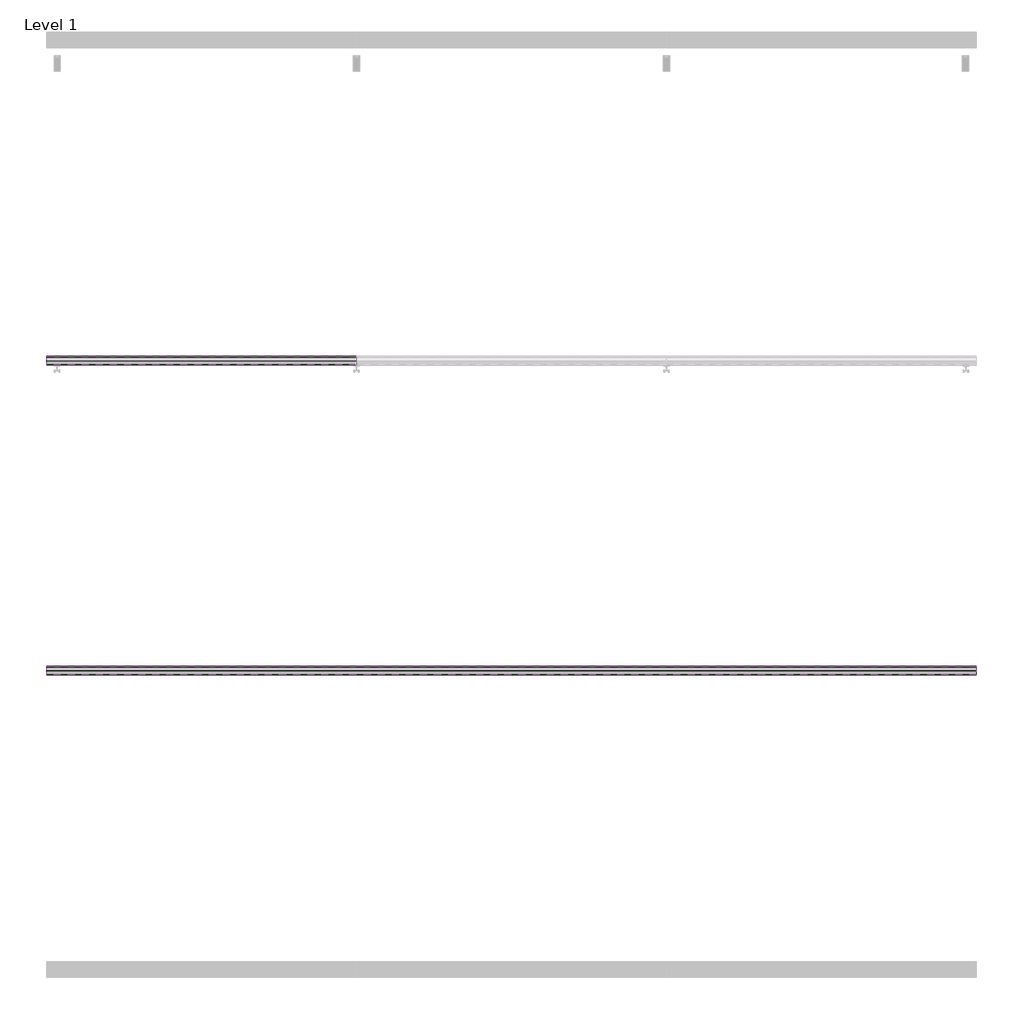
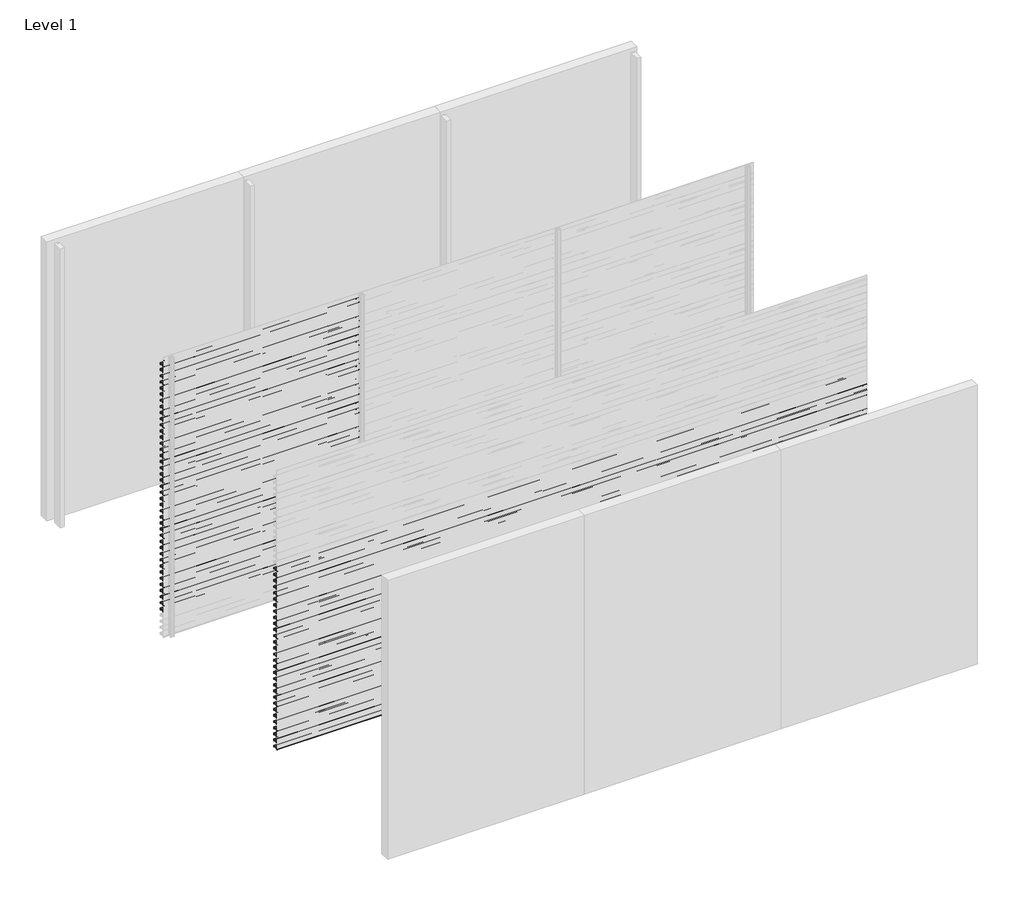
# One storey, part 8 of 27: 71 proxies.
"""IFC4 building model written with IfcOpenShell, lengths in millimetres."""

from ifc_helpers import new_model, si_unit, frame, origin, place, context, project, spatial, polyline, outline, extrude, element, save

model = new_model("IFC4")

# Units and contexts
model_context = context("Model", 3, world=origin())
ifc_project = project(units=[si_unit("LENGTHUNIT", "METRE", prefix="MILLI")], contexts=[model_context])

# Site, building, storey
site = spatial("IfcSite", under=ifc_project)
building = spatial("IfcBuilding", under=site)
storey = spatial("IfcBuildingStorey", under=building, Name="Level 1", Elevation=0.0)

# Proxies
placement = place(None, origin())
element("IfcBuildingElementProxy", 1, Name="Wall Sweeps", at=placement, inside=storey, context=model_context, shape_type="SweptSolid", body=[
    extrude(outline(polyline([(-41943.0, 2913.2), (-41943.0, 2893.5), (-41944.25, 2894.5866084), (-41944.25, 2912.4872415), (-41963.0322086, 2925.6010889), (-41995.1332975, 2893.5), (-41996.0525363, 2894.4192388), (-41964.1148087, 2926.3569665), (-41998.0, 2950.0158044), (-41998.0, 2970.0), (-41996.75, 2970.0), (-41996.75, 2950.7285629), (-41943.0, 2913.2)])), frame((0.0, 0.0, 0.0), z_axis=(1.0, 0.0, 0.0), x_axis=(0.0, 1.0, 0.0)), (0.0, 0.0, 1.0), 2000.0),
])
element("IfcBuildingElementProxy", 2, Name="Wall Sweeps", at=placement, inside=storey, context=model_context, shape_type="SweptSolid", body=[
    extrude(outline(polyline([(-41943.0, 2847.2), (-41943.0, 2827.5), (-41944.25, 2828.5866084), (-41944.25, 2846.4872415), (-41963.0322086, 2859.6010889), (-41995.1332975, 2827.5), (-41996.0525363, 2828.4192388), (-41964.1148087, 2860.3569665), (-41998.0, 2884.0158044), (-41998.0, 2904.0), (-41996.75, 2904.0), (-41996.75, 2884.7285629), (-41943.0, 2847.2)])), frame((0.0, 0.0, 0.0), z_axis=(1.0, 0.0, 0.0), x_axis=(0.0, 1.0, 0.0)), (0.0, 0.0, 1.0), 2000.0),
])
element("IfcBuildingElementProxy", 3, Name="Wall Sweeps", at=placement, inside=storey, context=model_context, shape_type="SweptSolid", body=[
    extrude(outline(polyline([(-41943.0, 2781.2), (-41943.0, 2761.5), (-41944.25, 2762.5866084), (-41944.25, 2780.4872415), (-41963.0322086, 2793.6010889), (-41995.1332975, 2761.5), (-41996.0525363, 2762.4192388), (-41964.1148087, 2794.3569665), (-41998.0, 2818.0158044), (-41998.0, 2838.0), (-41996.75, 2838.0), (-41996.75, 2818.7285629), (-41943.0, 2781.2)])), frame((0.0, 0.0, 0.0), z_axis=(1.0, 0.0, 0.0), x_axis=(0.0, 1.0, 0.0)), (0.0, 0.0, 1.0), 2000.0),
])
element("IfcBuildingElementProxy", 4, Name="Wall Sweeps", at=placement, inside=storey, context=model_context, shape_type="SweptSolid", body=[
    extrude(outline(polyline([(-41943.0, 2715.2), (-41943.0, 2695.5), (-41944.25, 2696.5866084), (-41944.25, 2714.4872415), (-41963.0322086, 2727.6010889), (-41995.1332975, 2695.5), (-41996.0525363, 2696.4192388), (-41964.1148087, 2728.3569665), (-41998.0, 2752.0158044), (-41998.0, 2772.0), (-41996.75, 2772.0), (-41996.75, 2752.7285629), (-41943.0, 2715.2)])), frame((0.0, 0.0, 0.0), z_axis=(1.0, 0.0, 0.0), x_axis=(0.0, 1.0, 0.0)), (0.0, 0.0, 1.0), 2000.0),
])
element("IfcBuildingElementProxy", 5, Name="Wall Sweeps", at=placement, inside=storey, context=model_context, shape_type="SweptSolid", body=[
    extrude(outline(polyline([(-41943.0, 2649.2), (-41943.0, 2629.5), (-41944.25, 2630.5866084), (-41944.25, 2648.4872415), (-41963.0322086, 2661.6010889), (-41995.1332975, 2629.5), (-41996.0525363, 2630.4192388), (-41964.1148087, 2662.3569665), (-41998.0, 2686.0158044), (-41998.0, 2706.0), (-41996.75, 2706.0), (-41996.75, 2686.7285629), (-41943.0, 2649.2)])), frame((0.0, 0.0, 0.0), z_axis=(1.0, 0.0, 0.0), x_axis=(0.0, 1.0, 0.0)), (0.0, 0.0, 1.0), 2000.0),
])
element("IfcBuildingElementProxy", 6, Name="Wall Sweeps", at=placement, inside=storey, context=model_context, shape_type="SweptSolid", body=[
    extrude(outline(polyline([(-41943.0, 2583.2), (-41943.0, 2563.5), (-41944.25, 2564.5866084), (-41944.25, 2582.4872415), (-41963.0322086, 2595.6010889), (-41995.1332975, 2563.5), (-41996.0525363, 2564.4192388), (-41964.1148087, 2596.3569665), (-41998.0, 2620.0158044), (-41998.0, 2640.0), (-41996.75, 2640.0), (-41996.75, 2620.7285629), (-41943.0, 2583.2)])), frame((0.0, 0.0, 0.0), z_axis=(1.0, 0.0, 0.0), x_axis=(0.0, 1.0, 0.0)), (0.0, 0.0, 1.0), 2000.0),
])
element("IfcBuildingElementProxy", 7, Name="Wall Sweeps", at=placement, inside=storey, context=model_context, shape_type="SweptSolid", body=[
    extrude(outline(polyline([(-41943.0, 2517.2), (-41943.0, 2497.5), (-41944.25, 2498.5866084), (-41944.25, 2516.4872415), (-41963.0322086, 2529.6010889), (-41995.1332975, 2497.5), (-41996.0525363, 2498.4192388), (-41964.1148087, 2530.3569665), (-41998.0, 2554.0158044), (-41998.0, 2574.0), (-41996.75, 2574.0), (-41996.75, 2554.7285629), (-41943.0, 2517.2)])), frame((0.0, 0.0, 0.0), z_axis=(1.0, 0.0, 0.0), x_axis=(0.0, 1.0, 0.0)), (0.0, 0.0, 1.0), 2000.0),
])
element("IfcBuildingElementProxy", 8, Name="Wall Sweeps", at=placement, inside=storey, context=model_context, shape_type="SweptSolid", body=[
    extrude(outline(polyline([(-41943.0, 2451.2), (-41943.0, 2431.5), (-41944.25, 2432.5866084), (-41944.25, 2450.4872415), (-41963.0322086, 2463.6010889), (-41995.1332975, 2431.5), (-41996.0525363, 2432.4192388), (-41964.1148087, 2464.3569665), (-41998.0, 2488.0158044), (-41998.0, 2508.0), (-41996.75, 2508.0), (-41996.75, 2488.7285629), (-41943.0, 2451.2)])), frame((0.0, 0.0, 0.0), z_axis=(1.0, 0.0, 0.0), x_axis=(0.0, 1.0, 0.0)), (0.0, 0.0, 1.0), 2000.0),
])
element("IfcBuildingElementProxy", 9, Name="Wall Sweeps", at=placement, inside=storey, context=model_context, shape_type="SweptSolid", body=[
    extrude(outline(polyline([(-41943.0, 2385.2), (-41943.0, 2365.5), (-41944.25, 2366.5866084), (-41944.25, 2384.4872415), (-41963.0322086, 2397.6010889), (-41995.1332975, 2365.5), (-41996.0525363, 2366.4192388), (-41964.1148087, 2398.3569665), (-41998.0, 2422.0158044), (-41998.0, 2442.0), (-41996.75, 2442.0), (-41996.75, 2422.7285629), (-41943.0, 2385.2)])), frame((0.0, 0.0, 0.0), z_axis=(1.0, 0.0, 0.0), x_axis=(0.0, 1.0, 0.0)), (0.0, 0.0, 1.0), 2000.0),
])
element("IfcBuildingElementProxy", 10, Name="Wall Sweeps", at=placement, inside=storey, context=model_context, shape_type="SweptSolid", body=[
    extrude(outline(polyline([(-41943.0, 2319.2), (-41943.0, 2299.5), (-41944.25, 2300.5866084), (-41944.25, 2318.4872415), (-41963.0322086, 2331.6010889), (-41995.1332975, 2299.5), (-41996.0525363, 2300.4192388), (-41964.1148087, 2332.3569665), (-41998.0, 2356.0158044), (-41998.0, 2376.0), (-41996.75, 2376.0), (-41996.75, 2356.7285629), (-41943.0, 2319.2)])), frame((0.0, 0.0, 0.0), z_axis=(1.0, 0.0, 0.0), x_axis=(0.0, 1.0, 0.0)), (0.0, 0.0, 1.0), 2000.0),
])
element("IfcBuildingElementProxy", 11, Name="Wall Sweeps", at=placement, inside=storey, context=model_context, shape_type="SweptSolid", body=[
    extrude(outline(polyline([(-41943.0, 2253.2), (-41943.0, 2233.5), (-41944.25, 2234.5866084), (-41944.25, 2252.4872415), (-41963.0322086, 2265.6010889), (-41995.1332975, 2233.5), (-41996.0525363, 2234.4192388), (-41964.1148087, 2266.3569665), (-41998.0, 2290.0158044), (-41998.0, 2310.0), (-41996.75, 2310.0), (-41996.75, 2290.7285629), (-41943.0, 2253.2)])), frame((0.0, 0.0, 0.0), z_axis=(1.0, 0.0, 0.0), x_axis=(0.0, 1.0, 0.0)), (0.0, 0.0, 1.0), 2000.0),
])
element("IfcBuildingElementProxy", 12, Name="Wall Sweeps", at=placement, inside=storey, context=model_context, shape_type="SweptSolid", body=[
    extrude(outline(polyline([(-41943.0, 2187.2), (-41943.0, 2167.5), (-41944.25, 2168.5866084), (-41944.25, 2186.4872415), (-41963.0322086, 2199.6010889), (-41995.1332975, 2167.5), (-41996.0525363, 2168.4192388), (-41964.1148087, 2200.3569665), (-41998.0, 2224.0158044), (-41998.0, 2244.0), (-41996.75, 2244.0), (-41996.75, 2224.7285629), (-41943.0, 2187.2)])), frame((0.0, 0.0, 0.0), z_axis=(1.0, 0.0, 0.0), x_axis=(0.0, 1.0, 0.0)), (0.0, 0.0, 1.0), 2000.0),
])
element("IfcBuildingElementProxy", 13, Name="Wall Sweeps", at=placement, inside=storey, context=model_context, shape_type="SweptSolid", body=[
    extrude(outline(polyline([(-41943.0, 2121.2), (-41943.0, 2101.5), (-41944.25, 2102.5866084), (-41944.25, 2120.4872415), (-41963.0322086, 2133.6010889), (-41995.1332975, 2101.5), (-41996.0525363, 2102.4192388), (-41964.1148087, 2134.3569665), (-41998.0, 2158.0158044), (-41998.0, 2178.0), (-41996.75, 2178.0), (-41996.75, 2158.7285629), (-41943.0, 2121.2)])), frame((0.0, 0.0, 0.0), z_axis=(1.0, 0.0, 0.0), x_axis=(0.0, 1.0, 0.0)), (0.0, 0.0, 1.0), 2000.0),
])
element("IfcBuildingElementProxy", 14, Name="Wall Sweeps", at=placement, inside=storey, context=model_context, shape_type="SweptSolid", body=[
    extrude(outline(polyline([(-41943.0, 2055.2), (-41943.0, 2035.5), (-41944.25, 2036.5866084), (-41944.25, 2054.4872415), (-41963.0322086, 2067.6010889), (-41995.1332975, 2035.5), (-41996.0525363, 2036.4192388), (-41964.1148087, 2068.3569665), (-41998.0, 2092.0158044), (-41998.0, 2112.0), (-41996.75, 2112.0), (-41996.75, 2092.7285629), (-41943.0, 2055.2)])), frame((0.0, 0.0, 0.0), z_axis=(1.0, 0.0, 0.0), x_axis=(0.0, 1.0, 0.0)), (0.0, 0.0, 1.0), 2000.0),
])
element("IfcBuildingElementProxy", 15, Name="Wall Sweeps", at=placement, inside=storey, context=model_context, shape_type="SweptSolid", body=[
    extrude(outline(polyline([(-41943.0, 1989.2), (-41943.0, 1969.5), (-41944.25, 1970.5866084), (-41944.25, 1988.4872415), (-41963.0322086, 2001.6010889), (-41995.1332975, 1969.5), (-41996.0525363, 1970.4192388), (-41964.1148087, 2002.3569665), (-41998.0, 2026.0158044), (-41998.0, 2046.0), (-41996.75, 2046.0), (-41996.75, 2026.7285629), (-41943.0, 1989.2)])), frame((0.0, 0.0, 0.0), z_axis=(1.0, 0.0, 0.0), x_axis=(0.0, 1.0, 0.0)), (0.0, 0.0, 1.0), 2000.0),
])
element("IfcBuildingElementProxy", 16, Name="Wall Sweeps", at=placement, inside=storey, context=model_context, shape_type="SweptSolid", body=[
    extrude(outline(polyline([(-41943.0, 1923.2), (-41943.0, 1903.5), (-41944.25, 1904.5866084), (-41944.25, 1922.4872415), (-41963.0322086, 1935.6010889), (-41995.1332975, 1903.5), (-41996.0525363, 1904.4192388), (-41964.1148087, 1936.3569665), (-41998.0, 1960.0158044), (-41998.0, 1980.0), (-41996.75, 1980.0), (-41996.75, 1960.7285629), (-41943.0, 1923.2)])), frame((0.0, 0.0, 0.0), z_axis=(1.0, 0.0, 0.0), x_axis=(0.0, 1.0, 0.0)), (0.0, 0.0, 1.0), 2000.0),
])
element("IfcBuildingElementProxy", 17, Name="Wall Sweeps", at=placement, inside=storey, context=model_context, shape_type="SweptSolid", body=[
    extrude(outline(polyline([(-41943.0, 1857.2), (-41943.0, 1837.5), (-41944.25, 1838.5866084), (-41944.25, 1856.4872415), (-41963.0322086, 1869.6010889), (-41995.1332975, 1837.5), (-41996.0525363, 1838.4192388), (-41964.1148087, 1870.3569665), (-41998.0, 1894.0158044), (-41998.0, 1914.0), (-41996.75, 1914.0), (-41996.75, 1894.7285629), (-41943.0, 1857.2)])), frame((0.0, 0.0, 0.0), z_axis=(1.0, 0.0, 0.0), x_axis=(0.0, 1.0, 0.0)), (0.0, 0.0, 1.0), 2000.0),
])
element("IfcBuildingElementProxy", 18, Name="Wall Sweeps", at=placement, inside=storey, context=model_context, shape_type="SweptSolid", body=[
    extrude(outline(polyline([(-41943.0, 1791.2), (-41943.0, 1771.5), (-41944.25, 1772.5866084), (-41944.25, 1790.4872415), (-41963.0322086, 1803.6010889), (-41995.1332975, 1771.5), (-41996.0525363, 1772.4192388), (-41964.1148087, 1804.3569665), (-41998.0, 1828.0158044), (-41998.0, 1848.0), (-41996.75, 1848.0), (-41996.75, 1828.7285629), (-41943.0, 1791.2)])), frame((0.0, 0.0, 0.0), z_axis=(1.0, 0.0, 0.0), x_axis=(0.0, 1.0, 0.0)), (0.0, 0.0, 1.0), 2000.0),
])
element("IfcBuildingElementProxy", 19, Name="Wall Sweeps", at=placement, inside=storey, context=model_context, shape_type="SweptSolid", body=[
    extrude(outline(polyline([(-41943.0, 1725.2), (-41943.0, 1705.5), (-41944.25, 1706.5866084), (-41944.25, 1724.4872415), (-41963.0322086, 1737.6010889), (-41995.1332975, 1705.5), (-41996.0525363, 1706.4192388), (-41964.1148087, 1738.3569665), (-41998.0, 1762.0158044), (-41998.0, 1782.0), (-41996.75, 1782.0), (-41996.75, 1762.7285629), (-41943.0, 1725.2)])), frame((0.0, 0.0, 0.0), z_axis=(1.0, 0.0, 0.0), x_axis=(0.0, 1.0, 0.0)), (0.0, 0.0, 1.0), 2000.0),
])
element("IfcBuildingElementProxy", 20, Name="Wall Sweeps", at=placement, inside=storey, context=model_context, shape_type="SweptSolid", body=[
    extrude(outline(polyline([(-41943.0, 1659.2), (-41943.0, 1639.5), (-41944.25, 1640.5866084), (-41944.25, 1658.4872415), (-41963.0322086, 1671.6010889), (-41995.1332975, 1639.5), (-41996.0525363, 1640.4192388), (-41964.1148087, 1672.3569665), (-41998.0, 1696.0158044), (-41998.0, 1716.0), (-41996.75, 1716.0), (-41996.75, 1696.7285629), (-41943.0, 1659.2)])), frame((0.0, 0.0, 0.0), z_axis=(1.0, 0.0, 0.0), x_axis=(0.0, 1.0, 0.0)), (0.0, 0.0, 1.0), 2000.0),
])
element("IfcBuildingElementProxy", 21, Name="Wall Sweeps", at=placement, inside=storey, context=model_context, shape_type="SweptSolid", body=[
    extrude(outline(polyline([(-41943.0, 1593.2), (-41943.0, 1573.5), (-41944.25, 1574.5866084), (-41944.25, 1592.4872415), (-41963.0322086, 1605.6010889), (-41995.1332975, 1573.5), (-41996.0525363, 1574.4192388), (-41964.1148087, 1606.3569665), (-41998.0, 1630.0158044), (-41998.0, 1650.0), (-41996.75, 1650.0), (-41996.75, 1630.7285629), (-41943.0, 1593.2)])), frame((0.0, 0.0, 0.0), z_axis=(1.0, 0.0, 0.0), x_axis=(0.0, 1.0, 0.0)), (0.0, 0.0, 1.0), 2000.0),
])
element("IfcBuildingElementProxy", 22, Name="Wall Sweeps", at=placement, inside=storey, context=model_context, shape_type="SweptSolid", body=[
    extrude(outline(polyline([(-41943.0, 1527.2), (-41943.0, 1507.5), (-41944.25, 1508.5866084), (-41944.25, 1526.4872415), (-41963.0322086, 1539.6010889), (-41995.1332975, 1507.5), (-41996.0525363, 1508.4192388), (-41964.1148087, 1540.3569665), (-41998.0, 1564.0158044), (-41998.0, 1584.0), (-41996.75, 1584.0), (-41996.75, 1564.7285629), (-41943.0, 1527.2)])), frame((0.0, 0.0, 0.0), z_axis=(1.0, 0.0, 0.0), x_axis=(0.0, 1.0, 0.0)), (0.0, 0.0, 1.0), 2000.0),
])
element("IfcBuildingElementProxy", 23, Name="Wall Sweeps", at=placement, inside=storey, context=model_context, shape_type="SweptSolid", body=[
    extrude(outline(polyline([(-41943.0, 1461.2), (-41943.0, 1441.5), (-41944.25, 1442.5866084), (-41944.25, 1460.4872415), (-41963.0322086, 1473.6010889), (-41995.1332975, 1441.5), (-41996.0525363, 1442.4192388), (-41964.1148087, 1474.3569665), (-41998.0, 1498.0158044), (-41998.0, 1518.0), (-41996.75, 1518.0), (-41996.75, 1498.7285629), (-41943.0, 1461.2)])), frame((0.0, 0.0, 0.0), z_axis=(1.0, 0.0, 0.0), x_axis=(0.0, 1.0, 0.0)), (0.0, 0.0, 1.0), 2000.0),
])
element("IfcBuildingElementProxy", 24, Name="Wall Sweeps", at=placement, inside=storey, context=model_context, shape_type="SweptSolid", body=[
    extrude(outline(polyline([(-41943.0, 1395.2), (-41943.0, 1375.5), (-41944.25, 1376.5866084), (-41944.25, 1394.4872415), (-41963.0322086, 1407.6010889), (-41995.1332975, 1375.5), (-41996.0525363, 1376.4192388), (-41964.1148087, 1408.3569665), (-41998.0, 1432.0158044), (-41998.0, 1452.0), (-41996.75, 1452.0), (-41996.75, 1432.7285629), (-41943.0, 1395.2)])), frame((0.0, 0.0, 0.0), z_axis=(1.0, 0.0, 0.0), x_axis=(0.0, 1.0, 0.0)), (0.0, 0.0, 1.0), 2000.0),
])
element("IfcBuildingElementProxy", 25, Name="Wall Sweeps", at=placement, inside=storey, context=model_context, shape_type="SweptSolid", body=[
    extrude(outline(polyline([(-41943.0, 1329.2), (-41943.0, 1309.5), (-41944.25, 1310.5866084), (-41944.25, 1328.4872415), (-41963.0322086, 1341.6010889), (-41995.1332975, 1309.5), (-41996.0525363, 1310.4192388), (-41964.1148087, 1342.3569665), (-41998.0, 1366.0158044), (-41998.0, 1386.0), (-41996.75, 1386.0), (-41996.75, 1366.7285629), (-41943.0, 1329.2)])), frame((0.0, 0.0, 0.0), z_axis=(1.0, 0.0, 0.0), x_axis=(0.0, 1.0, 0.0)), (0.0, 0.0, 1.0), 2000.0),
])
element("IfcBuildingElementProxy", 26, Name="Wall Sweeps", at=placement, inside=storey, context=model_context, shape_type="SweptSolid", body=[
    extrude(outline(polyline([(-41943.0, 1263.2), (-41943.0, 1243.5), (-41944.25, 1244.5866084), (-41944.25, 1262.4872415), (-41963.0322086, 1275.6010889), (-41995.1332975, 1243.5), (-41996.0525363, 1244.4192388), (-41964.1148087, 1276.3569665), (-41998.0, 1300.0158044), (-41998.0, 1320.0), (-41996.75, 1320.0), (-41996.75, 1300.7285629), (-41943.0, 1263.2)])), frame((0.0, 0.0, 0.0), z_axis=(1.0, 0.0, 0.0), x_axis=(0.0, 1.0, 0.0)), (0.0, 0.0, 1.0), 2000.0),
])
element("IfcBuildingElementProxy", 27, Name="Wall Sweeps", at=placement, inside=storey, context=model_context, shape_type="SweptSolid", body=[
    extrude(outline(polyline([(-41943.0, 1197.2), (-41943.0, 1177.5), (-41944.25, 1178.5866084), (-41944.25, 1196.4872415), (-41963.0322086, 1209.6010889), (-41995.1332975, 1177.5), (-41996.0525363, 1178.4192388), (-41964.1148087, 1210.3569665), (-41998.0, 1234.0158044), (-41998.0, 1254.0), (-41996.75, 1254.0), (-41996.75, 1234.7285629), (-41943.0, 1197.2)])), frame((0.0, 0.0, 0.0), z_axis=(1.0, 0.0, 0.0), x_axis=(0.0, 1.0, 0.0)), (0.0, 0.0, 1.0), 2000.0),
])
element("IfcBuildingElementProxy", 28, Name="Wall Sweeps", at=placement, inside=storey, context=model_context, shape_type="SweptSolid", body=[
    extrude(outline(polyline([(-41943.0, 1131.2), (-41943.0, 1111.5), (-41944.25, 1112.5866084), (-41944.25, 1130.4872415), (-41963.0322086, 1143.6010889), (-41995.1332975, 1111.5), (-41996.0525363, 1112.4192388), (-41964.1148087, 1144.3569665), (-41998.0, 1168.0158044), (-41998.0, 1188.0), (-41996.75, 1188.0), (-41996.75, 1168.7285629), (-41943.0, 1131.2)])), frame((0.0, 0.0, 0.0), z_axis=(1.0, 0.0, 0.0), x_axis=(0.0, 1.0, 0.0)), (0.0, 0.0, 1.0), 2000.0),
])
element("IfcBuildingElementProxy", 29, Name="Wall Sweeps", at=placement, inside=storey, context=model_context, shape_type="SweptSolid", body=[
    extrude(outline(polyline([(-41943.0, 1065.2), (-41943.0, 1045.5), (-41944.25, 1046.5866084), (-41944.25, 1064.4872415), (-41963.0322086, 1077.6010889), (-41995.1332975, 1045.5), (-41996.0525363, 1046.4192388), (-41964.1148087, 1078.3569665), (-41998.0, 1102.0158044), (-41998.0, 1122.0), (-41996.75, 1122.0), (-41996.75, 1102.7285629), (-41943.0, 1065.2)])), frame((0.0, 0.0, 0.0), z_axis=(1.0, 0.0, 0.0), x_axis=(0.0, 1.0, 0.0)), (0.0, 0.0, 1.0), 2000.0),
])
element("IfcBuildingElementProxy", 30, Name="Wall Sweeps", at=placement, inside=storey, context=model_context, shape_type="SweptSolid", body=[
    extrude(outline(polyline([(-41943.0, 999.2), (-41943.0, 979.5), (-41944.25, 980.5866084), (-41944.25, 998.4872415), (-41963.0322086, 1011.6010889), (-41995.1332975, 979.5), (-41996.0525363, 980.4192388), (-41964.1148087, 1012.3569665), (-41998.0, 1036.0158044), (-41998.0, 1056.0), (-41996.75, 1056.0), (-41996.75, 1036.7285629), (-41943.0, 999.2)])), frame((0.0, 0.0, 0.0), z_axis=(1.0, 0.0, 0.0), x_axis=(0.0, 1.0, 0.0)), (0.0, 0.0, 1.0), 2000.0),
])
element("IfcBuildingElementProxy", 31, Name="Wall Sweeps", at=placement, inside=storey, context=model_context, shape_type="SweptSolid", body=[
    extrude(outline(polyline([(-41943.0, 933.2), (-41943.0, 913.5), (-41944.25, 914.5866084), (-41944.25, 932.4872415), (-41963.0322086, 945.6010889), (-41995.1332975, 913.5), (-41996.0525363, 914.4192388), (-41964.1148087, 946.3569665), (-41998.0, 970.0158044), (-41998.0, 990.0), (-41996.75, 990.0), (-41996.75, 970.7285629), (-41943.0, 933.2)])), frame((0.0, 0.0, 0.0), z_axis=(1.0, 0.0, 0.0), x_axis=(0.0, 1.0, 0.0)), (0.0, 0.0, 1.0), 2000.0),
])
element("IfcBuildingElementProxy", 32, Name="Wall Sweeps", at=placement, inside=storey, context=model_context, shape_type="SweptSolid", body=[
    extrude(outline(polyline([(-41943.0, 867.2), (-41943.0, 847.5), (-41944.25, 848.5866084), (-41944.25, 866.4872415), (-41963.0322086, 879.6010889), (-41995.1332975, 847.5), (-41996.0525363, 848.4192388), (-41964.1148087, 880.3569665), (-41998.0, 904.0158044), (-41998.0, 924.0), (-41996.75, 924.0), (-41996.75, 904.7285629), (-41943.0, 867.2)])), frame((0.0, 0.0, 0.0), z_axis=(1.0, 0.0, 0.0), x_axis=(0.0, 1.0, 0.0)), (0.0, 0.0, 1.0), 2000.0),
])
element("IfcBuildingElementProxy", 33, Name="Wall Sweeps", at=placement, inside=storey, context=model_context, shape_type="SweptSolid", body=[
    extrude(outline(polyline([(-41943.0, 801.2), (-41943.0, 781.5), (-41944.25, 782.5866084), (-41944.25, 800.4872415), (-41963.0322086, 813.6010889), (-41995.1332975, 781.5), (-41996.0525363, 782.4192388), (-41964.1148087, 814.3569665), (-41998.0, 838.0158044), (-41998.0, 858.0), (-41996.75, 858.0), (-41996.75, 838.7285629), (-41943.0, 801.2)])), frame((0.0, 0.0, 0.0), z_axis=(1.0, 0.0, 0.0), x_axis=(0.0, 1.0, 0.0)), (0.0, 0.0, 1.0), 2000.0),
])
element("IfcBuildingElementProxy", 34, Name="Wall Sweeps", at=placement, inside=storey, context=model_context, shape_type="SweptSolid", body=[
    extrude(outline(polyline([(-41943.0, 735.2), (-41943.0, 715.5), (-41944.25, 716.5866084), (-41944.25, 734.4872415), (-41963.0322086, 747.6010889), (-41995.1332975, 715.5), (-41996.0525363, 716.4192388), (-41964.1148087, 748.3569665), (-41998.0, 772.0158044), (-41998.0, 792.0), (-41996.75, 792.0), (-41996.75, 772.7285629), (-41943.0, 735.2)])), frame((0.0, 0.0, 0.0), z_axis=(1.0, 0.0, 0.0), x_axis=(0.0, 1.0, 0.0)), (0.0, 0.0, 1.0), 2000.0),
])
element("IfcBuildingElementProxy", 35, Name="Wall Sweeps", at=placement, inside=storey, context=model_context, shape_type="SweptSolid", body=[
    extrude(outline(polyline([(-41943.0, 669.2), (-41943.0, 649.5), (-41944.25, 650.5866084), (-41944.25, 668.4872415), (-41963.0322086, 681.6010889), (-41995.1332975, 649.5), (-41996.0525363, 650.4192388), (-41964.1148087, 682.3569665), (-41998.0, 706.0158044), (-41998.0, 726.0), (-41996.75, 726.0), (-41996.75, 706.7285629), (-41943.0, 669.2)])), frame((0.0, 0.0, 0.0), z_axis=(1.0, 0.0, 0.0), x_axis=(0.0, 1.0, 0.0)), (0.0, 0.0, 1.0), 2000.0),
])
element("IfcBuildingElementProxy", 36, Name="Wall Sweeps", at=placement, inside=storey, context=model_context, shape_type="SweptSolid", body=[
    extrude(outline(polyline([(-41943.0, 603.2), (-41943.0, 583.5), (-41944.25, 584.5866084), (-41944.25, 602.4872415), (-41963.0322086, 615.6010889), (-41995.1332975, 583.5), (-41996.0525363, 584.4192388), (-41964.1148087, 616.3569665), (-41998.0, 640.0158044), (-41998.0, 660.0), (-41996.75, 660.0), (-41996.75, 640.7285629), (-41943.0, 603.2)])), frame((0.0, 0.0, 0.0), z_axis=(1.0, 0.0, 0.0), x_axis=(0.0, 1.0, 0.0)), (0.0, 0.0, 1.0), 2000.0),
])
element("IfcBuildingElementProxy", 37, Name="Wall Sweeps", at=placement, inside=storey, context=model_context, shape_type="SweptSolid", body=[
    extrude(outline(polyline([(-41943.0, 537.2), (-41943.0, 517.5), (-41944.25, 518.5866084), (-41944.25, 536.4872415), (-41963.0322086, 549.6010889), (-41995.1332975, 517.5), (-41996.0525363, 518.4192388), (-41964.1148087, 550.3569665), (-41998.0, 574.0158044), (-41998.0, 594.0), (-41996.75, 594.0), (-41996.75, 574.7285629), (-41943.0, 537.2)])), frame((0.0, 0.0, 0.0), z_axis=(1.0, 0.0, 0.0), x_axis=(0.0, 1.0, 0.0)), (0.0, 0.0, 1.0), 2000.0),
])
element("IfcBuildingElementProxy", 38, Name="Wall Sweeps", at=placement, inside=storey, context=model_context, shape_type="SweptSolid", body=[
    extrude(outline(polyline([(-41943.0, 471.2), (-41943.0, 451.5), (-41944.25, 452.5866084), (-41944.25, 470.4872415), (-41963.0322086, 483.6010889), (-41995.1332975, 451.5), (-41996.0525363, 452.4192388), (-41964.1148087, 484.3569665), (-41998.0, 508.0158044), (-41998.0, 528.0), (-41996.75, 528.0), (-41996.75, 508.7285629), (-41943.0, 471.2)])), frame((0.0, 0.0, 0.0), z_axis=(1.0, 0.0, 0.0), x_axis=(0.0, 1.0, 0.0)), (0.0, 0.0, 1.0), 2000.0),
])
element("IfcBuildingElementProxy", 39, Name="Wall Sweeps", at=placement, inside=storey, context=model_context, shape_type="SweptSolid", body=[
    extrude(outline(polyline([(-41943.0, 405.2), (-41943.0, 385.5), (-41944.25, 386.5866084), (-41944.25, 404.4872415), (-41963.0322086, 417.6010889), (-41995.1332975, 385.5), (-41996.0525363, 386.4192388), (-41964.1148087, 418.3569665), (-41998.0, 442.0158044), (-41998.0, 462.0), (-41996.75, 462.0), (-41996.75, 442.7285629), (-41943.0, 405.2)])), frame((0.0, 0.0, 0.0), z_axis=(1.0, 0.0, 0.0), x_axis=(0.0, 1.0, 0.0)), (0.0, 0.0, 1.0), 2000.0),
])
element("IfcBuildingElementProxy", 40, Name="Wall Sweeps", at=placement, inside=storey, context=model_context, shape_type="SweptSolid", body=[
    extrude(outline(polyline([(-41943.0, 339.2), (-41943.0, 319.5), (-41944.25, 320.5866084), (-41944.25, 338.4872415), (-41963.0322086, 351.6010889), (-41995.1332975, 319.5), (-41996.0525363, 320.4192388), (-41964.1148087, 352.3569665), (-41998.0, 376.0158044), (-41998.0, 396.0), (-41996.75, 396.0), (-41996.75, 376.7285629), (-41943.0, 339.2)])), frame((0.0, 0.0, 0.0), z_axis=(1.0, 0.0, 0.0), x_axis=(0.0, 1.0, 0.0)), (0.0, 0.0, 1.0), 2000.0),
])
element("IfcBuildingElementProxy", 41, Name="Wall Sweeps", at=placement, inside=storey, context=model_context, shape_type="SweptSolid", body=[
    extrude(outline(polyline([(-41943.0, 273.2), (-41943.0, 253.5), (-41944.25, 254.5866084), (-41944.25, 272.4872415), (-41963.0322086, 285.6010889), (-41995.1332975, 253.5), (-41996.0525363, 254.4192388), (-41964.1148087, 286.3569665), (-41998.0, 310.0158044), (-41998.0, 330.0), (-41996.75, 330.0), (-41996.75, 310.7285629), (-41943.0, 273.2)])), frame((0.0, 0.0, 0.0), z_axis=(1.0, 0.0, 0.0), x_axis=(0.0, 1.0, 0.0)), (0.0, 0.0, 1.0), 2000.0),
])
element("IfcBuildingElementProxy", 42, Name="Wall Sweeps", at=placement, inside=storey, context=model_context, shape_type="SweptSolid", body=[
    extrude(outline(polyline([(-43943.0, 1923.2), (-43943.0, 1903.5), (-43944.25, 1904.5866084), (-43944.25, 1922.4872415), (-43963.0322086, 1935.6010889), (-43995.1332975, 1903.5), (-43996.0525363, 1904.4192388), (-43964.1148087, 1936.3569665), (-43998.0, 1960.0158044), (-43998.0, 1980.0), (-43996.75, 1980.0), (-43996.75, 1960.7285629), (-43943.0, 1923.2)])), frame((0.0, 0.0, 0.0), z_axis=(1.0, 0.0, 0.0), x_axis=(0.0, 1.0, 0.0)), (0.0, 0.0, 1.0), 6000.0),
])
element("IfcBuildingElementProxy", 43, Name="Wall Sweeps", at=placement, inside=storey, context=model_context, shape_type="SweptSolid", body=[
    extrude(outline(polyline([(-43943.0, 1857.2), (-43943.0, 1837.5), (-43944.25, 1838.5866084), (-43944.25, 1856.4872415), (-43963.0322086, 1869.6010889), (-43995.1332975, 1837.5), (-43996.0525363, 1838.4192388), (-43964.1148087, 1870.3569665), (-43998.0, 1894.0158044), (-43998.0, 1914.0), (-43996.75, 1914.0), (-43996.75, 1894.7285629), (-43943.0, 1857.2)])), frame((0.0, 0.0, 0.0), z_axis=(1.0, 0.0, 0.0), x_axis=(0.0, 1.0, 0.0)), (0.0, 0.0, 1.0), 6000.0),
])
element("IfcBuildingElementProxy", 44, Name="Wall Sweeps", at=placement, inside=storey, context=model_context, shape_type="SweptSolid", body=[
    extrude(outline(polyline([(-43943.0, 1791.2), (-43943.0, 1771.5), (-43944.25, 1772.5866084), (-43944.25, 1790.4872415), (-43963.0322086, 1803.6010889), (-43995.1332975, 1771.5), (-43996.0525363, 1772.4192388), (-43964.1148087, 1804.3569665), (-43998.0, 1828.0158044), (-43998.0, 1848.0), (-43996.75, 1848.0), (-43996.75, 1828.7285629), (-43943.0, 1791.2)])), frame((0.0, 0.0, 0.0), z_axis=(1.0, 0.0, 0.0), x_axis=(0.0, 1.0, 0.0)), (0.0, 0.0, 1.0), 6000.0),
])
element("IfcBuildingElementProxy", 45, Name="Wall Sweeps", at=placement, inside=storey, context=model_context, shape_type="SweptSolid", body=[
    extrude(outline(polyline([(-43943.0, 1725.2), (-43943.0, 1705.5), (-43944.25, 1706.5866084), (-43944.25, 1724.4872415), (-43963.0322086, 1737.6010889), (-43995.1332975, 1705.5), (-43996.0525363, 1706.4192388), (-43964.1148087, 1738.3569665), (-43998.0, 1762.0158044), (-43998.0, 1782.0), (-43996.75, 1782.0), (-43996.75, 1762.7285629), (-43943.0, 1725.2)])), frame((0.0, 0.0, 0.0), z_axis=(1.0, 0.0, 0.0), x_axis=(0.0, 1.0, 0.0)), (0.0, 0.0, 1.0), 6000.0),
])
element("IfcBuildingElementProxy", 46, Name="Wall Sweeps", at=placement, inside=storey, context=model_context, shape_type="SweptSolid", body=[
    extrude(outline(polyline([(-43943.0, 1659.2), (-43943.0, 1639.5), (-43944.25, 1640.5866084), (-43944.25, 1658.4872415), (-43963.0322086, 1671.6010889), (-43995.1332975, 1639.5), (-43996.0525363, 1640.4192388), (-43964.1148087, 1672.3569665), (-43998.0, 1696.0158044), (-43998.0, 1716.0), (-43996.75, 1716.0), (-43996.75, 1696.7285629), (-43943.0, 1659.2)])), frame((0.0, 0.0, 0.0), z_axis=(1.0, 0.0, 0.0), x_axis=(0.0, 1.0, 0.0)), (0.0, 0.0, 1.0), 6000.0),
])
element("IfcBuildingElementProxy", 47, Name="Wall Sweeps", at=placement, inside=storey, context=model_context, shape_type="SweptSolid", body=[
    extrude(outline(polyline([(-43943.0, 1593.2), (-43943.0, 1573.5), (-43944.25, 1574.5866084), (-43944.25, 1592.4872415), (-43963.0322086, 1605.6010889), (-43995.1332975, 1573.5), (-43996.0525363, 1574.4192388), (-43964.1148087, 1606.3569665), (-43998.0, 1630.0158044), (-43998.0, 1650.0), (-43996.75, 1650.0), (-43996.75, 1630.7285629), (-43943.0, 1593.2)])), frame((0.0, 0.0, 0.0), z_axis=(1.0, 0.0, 0.0), x_axis=(0.0, 1.0, 0.0)), (0.0, 0.0, 1.0), 6000.0),
])
element("IfcBuildingElementProxy", 48, Name="Wall Sweeps", at=placement, inside=storey, context=model_context, shape_type="SweptSolid", body=[
    extrude(outline(polyline([(-43943.0, 1527.2), (-43943.0, 1507.5), (-43944.25, 1508.5866084), (-43944.25, 1526.4872415), (-43963.0322086, 1539.6010889), (-43995.1332975, 1507.5), (-43996.0525363, 1508.4192388), (-43964.1148087, 1540.3569665), (-43998.0, 1564.0158044), (-43998.0, 1584.0), (-43996.75, 1584.0), (-43996.75, 1564.7285629), (-43943.0, 1527.2)])), frame((0.0, 0.0, 0.0), z_axis=(1.0, 0.0, 0.0), x_axis=(0.0, 1.0, 0.0)), (0.0, 0.0, 1.0), 6000.0),
])
element("IfcBuildingElementProxy", 49, Name="Wall Sweeps", at=placement, inside=storey, context=model_context, shape_type="SweptSolid", body=[
    extrude(outline(polyline([(-43943.0, 1461.2), (-43943.0, 1441.5), (-43944.25, 1442.5866084), (-43944.25, 1460.4872415), (-43963.0322086, 1473.6010889), (-43995.1332975, 1441.5), (-43996.0525363, 1442.4192388), (-43964.1148087, 1474.3569665), (-43998.0, 1498.0158044), (-43998.0, 1518.0), (-43996.75, 1518.0), (-43996.75, 1498.7285629), (-43943.0, 1461.2)])), frame((0.0, 0.0, 0.0), z_axis=(1.0, 0.0, 0.0), x_axis=(0.0, 1.0, 0.0)), (0.0, 0.0, 1.0), 6000.0),
])
element("IfcBuildingElementProxy", 50, Name="Wall Sweeps", at=placement, inside=storey, context=model_context, shape_type="SweptSolid", body=[
    extrude(outline(polyline([(-43943.0, 1395.2), (-43943.0, 1375.5), (-43944.25, 1376.5866084), (-43944.25, 1394.4872415), (-43963.0322086, 1407.6010889), (-43995.1332975, 1375.5), (-43996.0525363, 1376.4192388), (-43964.1148087, 1408.3569665), (-43998.0, 1432.0158044), (-43998.0, 1452.0), (-43996.75, 1452.0), (-43996.75, 1432.7285629), (-43943.0, 1395.2)])), frame((0.0, 0.0, 0.0), z_axis=(1.0, 0.0, 0.0), x_axis=(0.0, 1.0, 0.0)), (0.0, 0.0, 1.0), 6000.0),
])
element("IfcBuildingElementProxy", 51, Name="Wall Sweeps", at=placement, inside=storey, context=model_context, shape_type="SweptSolid", body=[
    extrude(outline(polyline([(-43943.0, 1329.2), (-43943.0, 1309.5), (-43944.25, 1310.5866084), (-43944.25, 1328.4872415), (-43963.0322086, 1341.6010889), (-43995.1332975, 1309.5), (-43996.0525363, 1310.4192388), (-43964.1148087, 1342.3569665), (-43998.0, 1366.0158044), (-43998.0, 1386.0), (-43996.75, 1386.0), (-43996.75, 1366.7285629), (-43943.0, 1329.2)])), frame((0.0, 0.0, 0.0), z_axis=(1.0, 0.0, 0.0), x_axis=(0.0, 1.0, 0.0)), (0.0, 0.0, 1.0), 6000.0),
])
element("IfcBuildingElementProxy", 52, Name="Wall Sweeps", at=placement, inside=storey, context=model_context, shape_type="SweptSolid", body=[
    extrude(outline(polyline([(-43943.0, 1263.2), (-43943.0, 1243.5), (-43944.25, 1244.5866084), (-43944.25, 1262.4872415), (-43963.0322086, 1275.6010889), (-43995.1332975, 1243.5), (-43996.0525363, 1244.4192388), (-43964.1148087, 1276.3569665), (-43998.0, 1300.0158044), (-43998.0, 1320.0), (-43996.75, 1320.0), (-43996.75, 1300.7285629), (-43943.0, 1263.2)])), frame((0.0, 0.0, 0.0), z_axis=(1.0, 0.0, 0.0), x_axis=(0.0, 1.0, 0.0)), (0.0, 0.0, 1.0), 6000.0),
])
element("IfcBuildingElementProxy", 53, Name="Wall Sweeps", at=placement, inside=storey, context=model_context, shape_type="SweptSolid", body=[
    extrude(outline(polyline([(-43943.0, 1197.2), (-43943.0, 1177.5), (-43944.25, 1178.5866084), (-43944.25, 1196.4872415), (-43963.0322086, 1209.6010889), (-43995.1332975, 1177.5), (-43996.0525363, 1178.4192388), (-43964.1148087, 1210.3569665), (-43998.0, 1234.0158044), (-43998.0, 1254.0), (-43996.75, 1254.0), (-43996.75, 1234.7285629), (-43943.0, 1197.2)])), frame((0.0, 0.0, 0.0), z_axis=(1.0, 0.0, 0.0), x_axis=(0.0, 1.0, 0.0)), (0.0, 0.0, 1.0), 6000.0),
])
element("IfcBuildingElementProxy", 54, Name="Wall Sweeps", at=placement, inside=storey, context=model_context, shape_type="SweptSolid", body=[
    extrude(outline(polyline([(-43943.0, 1131.2), (-43943.0, 1111.5), (-43944.25, 1112.5866084), (-43944.25, 1130.4872415), (-43963.0322086, 1143.6010889), (-43995.1332975, 1111.5), (-43996.0525363, 1112.4192388), (-43964.1148087, 1144.3569665), (-43998.0, 1168.0158044), (-43998.0, 1188.0), (-43996.75, 1188.0), (-43996.75, 1168.7285629), (-43943.0, 1131.2)])), frame((0.0, 0.0, 0.0), z_axis=(1.0, 0.0, 0.0), x_axis=(0.0, 1.0, 0.0)), (0.0, 0.0, 1.0), 6000.0),
])
element("IfcBuildingElementProxy", 55, Name="Wall Sweeps", at=placement, inside=storey, context=model_context, shape_type="SweptSolid", body=[
    extrude(outline(polyline([(-43943.0, 1065.2), (-43943.0, 1045.5), (-43944.25, 1046.5866084), (-43944.25, 1064.4872415), (-43963.0322086, 1077.6010889), (-43995.1332975, 1045.5), (-43996.0525363, 1046.4192388), (-43964.1148087, 1078.3569665), (-43998.0, 1102.0158044), (-43998.0, 1122.0), (-43996.75, 1122.0), (-43996.75, 1102.7285629), (-43943.0, 1065.2)])), frame((0.0, 0.0, 0.0), z_axis=(1.0, 0.0, 0.0), x_axis=(0.0, 1.0, 0.0)), (0.0, 0.0, 1.0), 6000.0),
])
element("IfcBuildingElementProxy", 56, Name="Wall Sweeps", at=placement, inside=storey, context=model_context, shape_type="SweptSolid", body=[
    extrude(outline(polyline([(-43943.0, 999.2), (-43943.0, 979.5), (-43944.25, 980.5866084), (-43944.25, 998.4872415), (-43963.0322086, 1011.6010889), (-43995.1332975, 979.5), (-43996.0525363, 980.4192388), (-43964.1148087, 1012.3569665), (-43998.0, 1036.0158044), (-43998.0, 1056.0), (-43996.75, 1056.0), (-43996.75, 1036.7285629), (-43943.0, 999.2)])), frame((0.0, 0.0, 0.0), z_axis=(1.0, 0.0, 0.0), x_axis=(0.0, 1.0, 0.0)), (0.0, 0.0, 1.0), 6000.0),
])
element("IfcBuildingElementProxy", 57, Name="Wall Sweeps", at=placement, inside=storey, context=model_context, shape_type="SweptSolid", body=[
    extrude(outline(polyline([(-43943.0, 933.2), (-43943.0, 913.5), (-43944.25, 914.5866084), (-43944.25, 932.4872415), (-43963.0322086, 945.6010889), (-43995.1332975, 913.5), (-43996.0525363, 914.4192388), (-43964.1148087, 946.3569665), (-43998.0, 970.0158044), (-43998.0, 990.0), (-43996.75, 990.0), (-43996.75, 970.7285629), (-43943.0, 933.2)])), frame((0.0, 0.0, 0.0), z_axis=(1.0, 0.0, 0.0), x_axis=(0.0, 1.0, 0.0)), (0.0, 0.0, 1.0), 6000.0),
])
element("IfcBuildingElementProxy", 58, Name="Wall Sweeps", at=placement, inside=storey, context=model_context, shape_type="SweptSolid", body=[
    extrude(outline(polyline([(-43943.0, 867.2), (-43943.0, 847.5), (-43944.25, 848.5866084), (-43944.25, 866.4872415), (-43963.0322086, 879.6010889), (-43995.1332975, 847.5), (-43996.0525363, 848.4192388), (-43964.1148087, 880.3569665), (-43998.0, 904.0158044), (-43998.0, 924.0), (-43996.75, 924.0), (-43996.75, 904.7285629), (-43943.0, 867.2)])), frame((0.0, 0.0, 0.0), z_axis=(1.0, 0.0, 0.0), x_axis=(0.0, 1.0, 0.0)), (0.0, 0.0, 1.0), 6000.0),
])
element("IfcBuildingElementProxy", 59, Name="Wall Sweeps", at=placement, inside=storey, context=model_context, shape_type="SweptSolid", body=[
    extrude(outline(polyline([(-43943.0, 801.2), (-43943.0, 781.5), (-43944.25, 782.5866084), (-43944.25, 800.4872415), (-43963.0322086, 813.6010889), (-43995.1332975, 781.5), (-43996.0525363, 782.4192388), (-43964.1148087, 814.3569665), (-43998.0, 838.0158044), (-43998.0, 858.0), (-43996.75, 858.0), (-43996.75, 838.7285629), (-43943.0, 801.2)])), frame((0.0, 0.0, 0.0), z_axis=(1.0, 0.0, 0.0), x_axis=(0.0, 1.0, 0.0)), (0.0, 0.0, 1.0), 6000.0),
])
element("IfcBuildingElementProxy", 60, Name="Wall Sweeps", at=placement, inside=storey, context=model_context, shape_type="SweptSolid", body=[
    extrude(outline(polyline([(-43943.0, 735.2), (-43943.0, 715.5), (-43944.25, 716.5866084), (-43944.25, 734.4872415), (-43963.0322086, 747.6010889), (-43995.1332975, 715.5), (-43996.0525363, 716.4192388), (-43964.1148087, 748.3569665), (-43998.0, 772.0158044), (-43998.0, 792.0), (-43996.75, 792.0), (-43996.75, 772.7285629), (-43943.0, 735.2)])), frame((0.0, 0.0, 0.0), z_axis=(1.0, 0.0, 0.0), x_axis=(0.0, 1.0, 0.0)), (0.0, 0.0, 1.0), 6000.0),
])
element("IfcBuildingElementProxy", 61, Name="Wall Sweeps", at=placement, inside=storey, context=model_context, shape_type="SweptSolid", body=[
    extrude(outline(polyline([(-43943.0, 669.2), (-43943.0, 649.5), (-43944.25, 650.5866084), (-43944.25, 668.4872415), (-43963.0322086, 681.6010889), (-43995.1332975, 649.5), (-43996.0525363, 650.4192388), (-43964.1148087, 682.3569665), (-43998.0, 706.0158044), (-43998.0, 726.0), (-43996.75, 726.0), (-43996.75, 706.7285629), (-43943.0, 669.2)])), frame((0.0, 0.0, 0.0), z_axis=(1.0, 0.0, 0.0), x_axis=(0.0, 1.0, 0.0)), (0.0, 0.0, 1.0), 6000.0),
])
element("IfcBuildingElementProxy", 62, Name="Wall Sweeps", at=placement, inside=storey, context=model_context, shape_type="SweptSolid", body=[
    extrude(outline(polyline([(-43943.0, 603.2), (-43943.0, 583.5), (-43944.25, 584.5866084), (-43944.25, 602.4872415), (-43963.0322086, 615.6010889), (-43995.1332975, 583.5), (-43996.0525363, 584.4192388), (-43964.1148087, 616.3569665), (-43998.0, 640.0158044), (-43998.0, 660.0), (-43996.75, 660.0), (-43996.75, 640.7285629), (-43943.0, 603.2)])), frame((0.0, 0.0, 0.0), z_axis=(1.0, 0.0, 0.0), x_axis=(0.0, 1.0, 0.0)), (0.0, 0.0, 1.0), 6000.0),
])
element("IfcBuildingElementProxy", 63, Name="Wall Sweeps", at=placement, inside=storey, context=model_context, shape_type="SweptSolid", body=[
    extrude(outline(polyline([(-43943.0, 537.2), (-43943.0, 517.5), (-43944.25, 518.5866084), (-43944.25, 536.4872415), (-43963.0322086, 549.6010889), (-43995.1332975, 517.5), (-43996.0525363, 518.4192388), (-43964.1148087, 550.3569665), (-43998.0, 574.0158044), (-43998.0, 594.0), (-43996.75, 594.0), (-43996.75, 574.7285629), (-43943.0, 537.2)])), frame((0.0, 0.0, 0.0), z_axis=(1.0, 0.0, 0.0), x_axis=(0.0, 1.0, 0.0)), (0.0, 0.0, 1.0), 6000.0),
])
element("IfcBuildingElementProxy", 64, Name="Wall Sweeps", at=placement, inside=storey, context=model_context, shape_type="SweptSolid", body=[
    extrude(outline(polyline([(-43943.0, 471.2), (-43943.0, 451.5), (-43944.25, 452.5866084), (-43944.25, 470.4872415), (-43963.0322086, 483.6010889), (-43995.1332975, 451.5), (-43996.0525363, 452.4192388), (-43964.1148087, 484.3569665), (-43998.0, 508.0158044), (-43998.0, 528.0), (-43996.75, 528.0), (-43996.75, 508.7285629), (-43943.0, 471.2)])), frame((0.0, 0.0, 0.0), z_axis=(1.0, 0.0, 0.0), x_axis=(0.0, 1.0, 0.0)), (0.0, 0.0, 1.0), 6000.0),
])
element("IfcBuildingElementProxy", 65, Name="Wall Sweeps", at=placement, inside=storey, context=model_context, shape_type="SweptSolid", body=[
    extrude(outline(polyline([(-43943.0, 405.2), (-43943.0, 385.5), (-43944.25, 386.5866084), (-43944.25, 404.4872415), (-43963.0322086, 417.6010889), (-43995.1332975, 385.5), (-43996.0525363, 386.4192388), (-43964.1148087, 418.3569665), (-43998.0, 442.0158044), (-43998.0, 462.0), (-43996.75, 462.0), (-43996.75, 442.7285629), (-43943.0, 405.2)])), frame((0.0, 0.0, 0.0), z_axis=(1.0, 0.0, 0.0), x_axis=(0.0, 1.0, 0.0)), (0.0, 0.0, 1.0), 6000.0),
])
element("IfcBuildingElementProxy", 66, Name="Wall Sweeps", at=placement, inside=storey, context=model_context, shape_type="SweptSolid", body=[
    extrude(outline(polyline([(-43943.0, 339.2), (-43943.0, 319.5), (-43944.25, 320.5866084), (-43944.25, 338.4872415), (-43963.0322086, 351.6010889), (-43995.1332975, 319.5), (-43996.0525363, 320.4192388), (-43964.1148087, 352.3569665), (-43998.0, 376.0158044), (-43998.0, 396.0), (-43996.75, 396.0), (-43996.75, 376.7285629), (-43943.0, 339.2)])), frame((0.0, 0.0, 0.0), z_axis=(1.0, 0.0, 0.0), x_axis=(0.0, 1.0, 0.0)), (0.0, 0.0, 1.0), 6000.0),
])
element("IfcBuildingElementProxy", 67, Name="Wall Sweeps", at=placement, inside=storey, context=model_context, shape_type="SweptSolid", body=[
    extrude(outline(polyline([(-43943.0, 273.2), (-43943.0, 253.5), (-43944.25, 254.5866084), (-43944.25, 272.4872415), (-43963.0322086, 285.6010889), (-43995.1332975, 253.5), (-43996.0525363, 254.4192388), (-43964.1148087, 286.3569665), (-43998.0, 310.0158044), (-43998.0, 330.0), (-43996.75, 330.0), (-43996.75, 310.7285629), (-43943.0, 273.2)])), frame((0.0, 0.0, 0.0), z_axis=(1.0, 0.0, 0.0), x_axis=(0.0, 1.0, 0.0)), (0.0, 0.0, 1.0), 6000.0),
])
element("IfcBuildingElementProxy", 68, Name="Wall Sweeps", at=placement, inside=storey, context=model_context, shape_type="SweptSolid", body=[
    extrude(outline(polyline([(-43943.0, 207.2), (-43943.0, 187.5), (-43944.25, 188.5866084), (-43944.25, 206.4872415), (-43963.0322086, 219.6010889), (-43995.1332975, 187.5), (-43996.0525363, 188.4192388), (-43964.1148087, 220.3569665), (-43998.0, 244.0158044), (-43998.0, 264.0), (-43996.75, 264.0), (-43996.75, 244.7285629), (-43943.0, 207.2)])), frame((0.0, 0.0, 0.0), z_axis=(1.0, 0.0, 0.0), x_axis=(0.0, 1.0, 0.0)), (0.0, 0.0, 1.0), 6000.0),
])
element("IfcBuildingElementProxy", 69, Name="Wall Sweeps", at=placement, inside=storey, context=model_context, shape_type="SweptSolid", body=[
    extrude(outline(polyline([(-43943.0, 141.2), (-43943.0, 121.5), (-43944.25, 122.5866084), (-43944.25, 140.4872415), (-43963.0322086, 153.6010889), (-43995.1332975, 121.5), (-43996.0525363, 122.4192388), (-43964.1148087, 154.3569665), (-43998.0, 178.0158044), (-43998.0, 198.0), (-43996.75, 198.0), (-43996.75, 178.7285629), (-43943.0, 141.2)])), frame((0.0, 0.0, 0.0), z_axis=(1.0, 0.0, 0.0), x_axis=(0.0, 1.0, 0.0)), (0.0, 0.0, 1.0), 6000.0),
])
element("IfcBuildingElementProxy", 70, Name="Wall Sweeps", at=placement, inside=storey, context=model_context, shape_type="SweptSolid", body=[
    extrude(outline(polyline([(-43943.0, 75.2), (-43943.0, 55.5), (-43944.25, 56.5866084), (-43944.25, 74.4872415), (-43963.0322086, 87.6010889), (-43995.1332975, 55.5), (-43996.0525363, 56.4192388), (-43964.1148087, 88.3569665), (-43998.0, 112.0158044), (-43998.0, 132.0), (-43996.75, 132.0), (-43996.75, 112.7285629), (-43943.0, 75.2)])), frame((0.0, 0.0, 0.0), z_axis=(1.0, 0.0, 0.0), x_axis=(0.0, 1.0, 0.0)), (0.0, 0.0, 1.0), 6000.0),
])
element("IfcBuildingElementProxy", 71, Name="Wall Sweeps", at=placement, inside=storey, context=model_context, shape_type="SweptSolid", body=[
    extrude(outline(polyline([(-43943.0, 9.2), (-43943.0, -10.5), (-43944.25, -9.4133916), (-43944.25, 8.4872415), (-43963.0322086, 21.6010889), (-43995.1332975, -10.5), (-43996.0525363, -9.5807612), (-43964.1148087, 22.3569665), (-43998.0, 46.0158044), (-43998.0, 66.0), (-43996.75, 66.0), (-43996.75, 46.7285629), (-43943.0, 9.2)])), frame((0.0, 0.0, 0.0), z_axis=(1.0, 0.0, 0.0), x_axis=(0.0, 1.0, 0.0)), (0.0, 0.0, 1.0), 6000.0),
])

save(model, "model.ifc")
